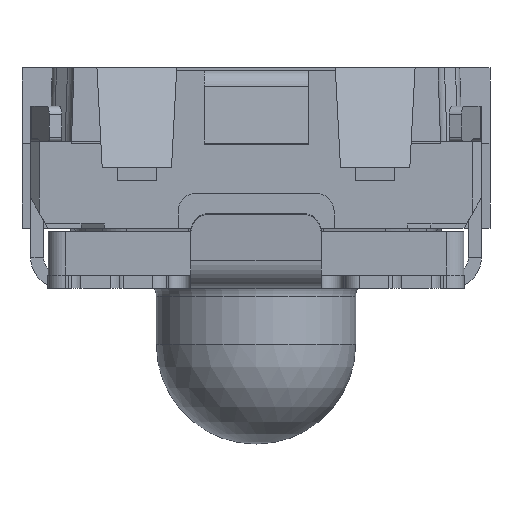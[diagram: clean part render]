
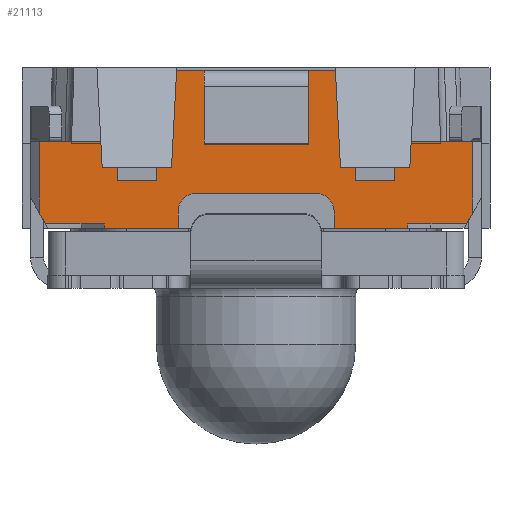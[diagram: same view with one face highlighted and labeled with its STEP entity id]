
A CAD part, left-side view. The second image highlights one B-rep face of the part: STEP entity #21113.
In plain terms, the highlighted planar face has unit normal (-1, 0, 0).
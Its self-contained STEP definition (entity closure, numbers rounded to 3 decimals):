
#14081=DIRECTION('',(0.,1.,0.));
#14082=VECTOR('',#14081,0.85);
#14083=CARTESIAN_POINT('',(-7.66,45.9,-1.06));
#14084=LINE('',#14083,#14082);
#14088=DIRECTION('',(0.,1.,0.));
#14089=VECTOR('',#14088,0.85);
#14090=CARTESIAN_POINT('',(-7.66,43.25,-1.06));
#14091=LINE('',#14090,#14089);
#14417=DIRECTION('',(0.,0.,-1.));
#14418=VECTOR('',#14417,0.825);
#14419=CARTESIAN_POINT('',(-7.66,42.5,
-0.06));
#14420=LINE('',#14419,#14418);
#14439=DIRECTION('',(0.,0.052,-0.999));
#14440=VECTOR('',#14439,1.122);
#14441=CARTESIAN_POINT('',(-7.66,45.916,
0.76));
#14442=LINE('',#14441,#14440);
#14446=DIRECTION('',(0.,1.,0.));
#14447=VECTOR('',#14446,1.833);
#14448=CARTESIAN_POINT('',(-7.66,44.084,
0.76));
#14449=LINE('',#14448,#14447);
#14453=DIRECTION('',(0.,0.052,0.999));
#14454=VECTOR('',#14453,1.122);
#14455=CARTESIAN_POINT('',(-7.66,44.025,
-0.36));
#14456=LINE('',#14455,#14454);
#14460=DIRECTION('',(0.,0.052,-0.999));
#14461=VECTOR('',#14460,0.3);
#14462=CARTESIAN_POINT('',(-7.66,43.209,
-0.06));
#14463=LINE('',#14462,#14461);
#14467=DIRECTION('',(0.,1.,0.));
#14468=VECTOR('',#14467,0.709);
#14469=CARTESIAN_POINT('',(-7.66,42.5,
-0.06));
#14470=LINE('',#14469,#14468);
#14474=DIRECTION('',(0.,-0.496,0.868));
#14475=VECTOR('',#14474,0.144);
#14476=CARTESIAN_POINT('',(-7.66,42.571,-1.01));
#14477=LINE('',#14476,#14475);
#14481=CARTESIAN_POINT('',(-7.66,44.3,
-0.86));
#14482=DIRECTION('',(1.,0.,0.));
#14483=DIRECTION('',(0.,0.,1.));
#14484=AXIS2_PLACEMENT_3D('',#14481,#14482,#14483);
#14489=CARTESIAN_POINT('',(-7.66,45.7,
-0.86));
#14490=DIRECTION('',(1.,0.,0.));
#14491=DIRECTION('',(0.,1.,0.));
#14492=AXIS2_PLACEMENT_3D('',#14489,#14490,#14491);
#14497=DIRECTION('',(0.,-0.496,-0.868));
#14498=VECTOR('',#14497,0.144);
#14499=CARTESIAN_POINT('',(-7.66,47.5,
-0.885));
#14500=LINE('',#14499,#14498);
#14504=DIRECTION('',(0.,0.,-1.));
#14505=VECTOR('',#14504,0.825);
#14506=CARTESIAN_POINT('',(-7.66,47.5,
-0.06));
#14507=LINE('',#14506,#14505);
#14511=DIRECTION('',(0.,1.,0.));
#14512=VECTOR('',#14511,0.709);
#14513=CARTESIAN_POINT('',(-7.66,46.791,
-0.06));
#14514=LINE('',#14513,#14512);
#14518=DIRECTION('',(0.,0.052,0.999));
#14519=VECTOR('',#14518,0.3);
#14520=CARTESIAN_POINT('',(-7.66,46.775,
-0.36));
#14521=LINE('',#14520,#14519);
#14860=DIRECTION('',(0.,-1.,0.));
#14861=VECTOR('',#14860,0.8);
#14862=CARTESIAN_POINT('',(-7.66,44.025,
-0.36));
#14863=LINE('',#14862,#14861);
#15055=DIRECTION('',(0.,1.,0.));
#15056=VECTOR('',#15055,0.8);
#15057=CARTESIAN_POINT('',(-7.66,45.975,
-0.36));
#15058=LINE('',#15057,#15056);
#15646=DIRECTION('',(0.,-1.,0.));
#15647=VECTOR('',#15646,0.679);
#15648=CARTESIAN_POINT('',(-7.66,47.429,-1.01));
#15649=LINE('',#15648,#15647);
#15681=DIRECTION('',(0.,0.,-1.));
#15682=VECTOR('',#15681,0.05);
#15683=CARTESIAN_POINT('',(-7.66,46.75,-1.01));
#15684=LINE('',#15683,#15682);
#15849=DIRECTION('',(0.,0.,-1.));
#15850=VECTOR('',#15849,0.05);
#15851=CARTESIAN_POINT('',(-7.66,43.25,-1.01));
#15852=LINE('',#15851,#15850);
#15870=DIRECTION('',(0.,-1.,0.));
#15871=VECTOR('',#15870,0.679);
#15872=CARTESIAN_POINT('',(-7.66,43.25,-1.01));
#15873=LINE('',#15872,#15871);
#15891=DIRECTION('',(0.,0.,1.));
#15892=VECTOR('',#15891,0.2);
#15893=CARTESIAN_POINT('',(-7.66,44.1,-1.06));
#15894=LINE('',#15893,#15892);
#15963=DIRECTION('',(0.,1.,0.));
#15964=VECTOR('',#15963,1.4);
#15965=CARTESIAN_POINT('',(-7.66,44.3,
-0.66));
#15966=LINE('',#15965,#15964);
#15991=DIRECTION('',(0.,0.,1.));
#15992=VECTOR('',#15991,0.2);
#15993=CARTESIAN_POINT('',(-7.66,45.9,-1.06));
#15994=LINE('',#15993,#15992);
#18888=CARTESIAN_POINT('',(-7.66,44.025,
-0.36));
#18889=CARTESIAN_POINT('',(-7.66,44.084,
0.76));
#18890=VERTEX_POINT('',#18888);
#18891=VERTEX_POINT('',#18889);
#18906=CARTESIAN_POINT('',(-7.66,45.916,
0.76));
#18907=VERTEX_POINT('',#18906);
#18914=CARTESIAN_POINT('',(-7.66,45.975,
-0.36));
#18915=VERTEX_POINT('',#18914);
#19015=CARTESIAN_POINT('',(-7.66,43.209,
-0.06));
#19016=VERTEX_POINT('',#19015);
#19017=CARTESIAN_POINT('',(-7.66,43.225,
-0.36));
#19018=VERTEX_POINT('',#19017);
#19084=CARTESIAN_POINT('',(-7.66,42.5,
-0.06));
#19085=VERTEX_POINT('',#19084);
#19086=CARTESIAN_POINT('',(-7.66,46.791,
-0.06));
#19087=VERTEX_POINT('',#19086);
#19088=CARTESIAN_POINT('',(-7.66,47.5,
-0.06));
#19089=VERTEX_POINT('',#19088);
#19116=CARTESIAN_POINT('',(-7.66,46.775,
-0.36));
#19117=VERTEX_POINT('',#19116);
#19134=CARTESIAN_POINT('',(-7.66,47.5,
-0.885));
#19135=VERTEX_POINT('',#19134);
#19138=CARTESIAN_POINT('',(-7.66,42.5,
-0.885));
#19139=VERTEX_POINT('',#19138);
#19140=CARTESIAN_POINT('',(-7.66,42.571,-1.01));
#19141=VERTEX_POINT('',#19140);
#19142=CARTESIAN_POINT('',(-7.66,43.25,-1.01));
#19143=VERTEX_POINT('',#19142);
#19144=CARTESIAN_POINT('',(-7.66,43.25,-1.06));
#19145=VERTEX_POINT('',#19144);
#19146=CARTESIAN_POINT('',(-7.66,44.1,-1.06));
#19147=VERTEX_POINT('',#19146);
#19148=CARTESIAN_POINT('',(-7.66,44.1,
-0.86));
#19149=VERTEX_POINT('',#19148);
#19150=CARTESIAN_POINT('',(-7.66,44.3,
-0.66));
#19151=VERTEX_POINT('',#19150);
#19152=CARTESIAN_POINT('',(-7.66,45.7,
-0.66));
#19153=VERTEX_POINT('',#19152);
#19154=CARTESIAN_POINT('',(-7.66,45.9,
-0.86));
#19155=VERTEX_POINT('',#19154);
#19156=CARTESIAN_POINT('',(-7.66,45.9,-1.06));
#19157=VERTEX_POINT('',#19156);
#19158=CARTESIAN_POINT('',(-7.66,46.75,-1.06));
#19159=VERTEX_POINT('',#19158);
#19160=CARTESIAN_POINT('',(-7.66,46.75,-1.01));
#19161=VERTEX_POINT('',#19160);
#19162=CARTESIAN_POINT('',(-7.66,47.429,-1.01));
#19163=VERTEX_POINT('',#19162);
#21061=CARTESIAN_POINT('',(-7.66,45.,
-0.15));
#21062=DIRECTION('',(1.,0.,0.));
#21063=DIRECTION('',(0.,-1.,0.));
#21064=AXIS2_PLACEMENT_3D('',#21061,#21062,#21063);
#21065=PLANE('',#21064);
#21067=ORIENTED_EDGE('',*,*,#21066,.F.);
#21069=ORIENTED_EDGE('',*,*,#21068,.F.);
#21071=ORIENTED_EDGE('',*,*,#21070,.F.);
#21073=ORIENTED_EDGE('',*,*,#21072,.T.);
#21075=ORIENTED_EDGE('',*,*,#21074,.F.);
#21077=ORIENTED_EDGE('',*,*,#21076,.F.);
#21078=ORIENTED_EDGE('',*,*,#21049,.T.);
#21080=ORIENTED_EDGE('',*,*,#21079,.F.);
#21082=ORIENTED_EDGE('',*,*,#21081,.F.);
#21084=ORIENTED_EDGE('',*,*,#21083,.T.);
#21085=ORIENTED_EDGE('',*,*,#20883,.T.);
#21087=ORIENTED_EDGE('',*,*,#21086,.T.);
#21089=ORIENTED_EDGE('',*,*,#21088,.F.);
#21091=ORIENTED_EDGE('',*,*,#21090,.T.);
#21093=ORIENTED_EDGE('',*,*,#21092,.F.);
#21095=ORIENTED_EDGE('',*,*,#21094,.F.);
#21096=ORIENTED_EDGE('',*,*,#20875,.T.);
#21098=ORIENTED_EDGE('',*,*,#21097,.F.);
#21100=ORIENTED_EDGE('',*,*,#21099,.F.);
#21102=ORIENTED_EDGE('',*,*,#21101,.F.);
#21104=ORIENTED_EDGE('',*,*,#21103,.F.);
#21106=ORIENTED_EDGE('',*,*,#21105,.F.);
#21108=ORIENTED_EDGE('',*,*,#21107,.F.);
#21110=ORIENTED_EDGE('',*,*,#21109,.F.);
#21111=EDGE_LOOP('',(#21067,#21069,#21071,#21073,#21075,#21077,#21078,#21080,
#21082,#21084,#21085,#21087,#21089,#21091,#21093,#21095,#21096,#21098,#21100,
#21102,#21104,#21106,#21108,#21110));
#21112=FACE_OUTER_BOUND('',#21111,.F.);
#14485=CIRCLE('',#14484,0.2);
#14493=CIRCLE('',#14492,0.2);
#20875=EDGE_CURVE('',#19157,#19159,#14084,.T.);
#20883=EDGE_CURVE('',#19145,#19147,#14091,.T.);
#21049=EDGE_CURVE('',#19085,#19139,#14420,.T.);
#21066=EDGE_CURVE('',#18907,#18915,#14442,.T.);
#21068=EDGE_CURVE('',#18891,#18907,#14449,.T.);
#21070=EDGE_CURVE('',#18890,#18891,#14456,.T.);
#21072=EDGE_CURVE('',#18890,#19018,#14863,.T.);
#21074=EDGE_CURVE('',#19016,#19018,#14463,.T.);
#21076=EDGE_CURVE('',#19085,#19016,#14470,.T.);
#21079=EDGE_CURVE('',#19141,#19139,#14477,.T.);
#21081=EDGE_CURVE('',#19143,#19141,#15873,.T.);
#21083=EDGE_CURVE('',#19143,#19145,#15852,.T.);
#21086=EDGE_CURVE('',#19147,#19149,#15894,.T.);
#21088=EDGE_CURVE('',#19151,#19149,#14485,.T.);
#21090=EDGE_CURVE('',#19151,#19153,#15966,.T.);
#21092=EDGE_CURVE('',#19155,#19153,#14493,.T.);
#21094=EDGE_CURVE('',#19157,#19155,#15994,.T.);
#21097=EDGE_CURVE('',#19161,#19159,#15684,.T.);
#21099=EDGE_CURVE('',#19163,#19161,#15649,.T.);
#21101=EDGE_CURVE('',#19135,#19163,#14500,.T.);
#21103=EDGE_CURVE('',#19089,#19135,#14507,.T.);
#21105=EDGE_CURVE('',#19087,#19089,#14514,.T.);
#21107=EDGE_CURVE('',#19117,#19087,#14521,.T.);
#21109=EDGE_CURVE('',#18915,#19117,#15058,.T.);
#21113=ADVANCED_FACE('',(#21112),#21065,.F.);
